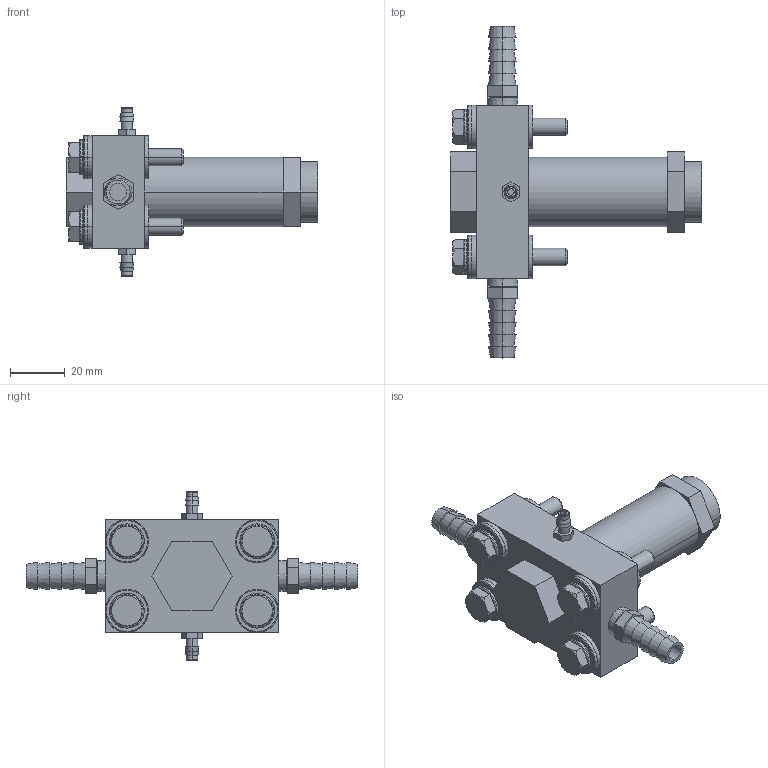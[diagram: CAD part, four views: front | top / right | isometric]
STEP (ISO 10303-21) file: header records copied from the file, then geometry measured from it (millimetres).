
FILE_DESCRIPTION((''),'2;1');
FILE_NAME('XKR2_ASM','2017-08-24T',('jennifer.elliott'),('CenterLine (Windsor) Ltd - Automation Components Division'),'PRO/ENGINEER BY PARAMETRIC TECHNOLOGY CORPORATION, 2015030','PRO/ENGINEER BY PARAMETRIC TECHNOLOGY CORPORATION, 2015030','');
FILE_SCHEMA(('AUTOMOTIVE_DESIGN { 1 0 10303 214 1 1 1 1 }'));
Length unit declared in the file: inch
Products named in the file (31): PRT1477; PRT1478; PRT1479; PRT1480; PRT1481; PRT1482; PRT1483; PRT1484; PRT1485; PRT1486; PRT1487; PRT1488; PRT1489; PRT1490; ASM0018_ASM; PRT1491; PRT1492; PRT1493; PRT1494; PRT1495; PRT1496; PRT1497; PRT1498; PRT1499; PRT1500; PRT1501; PRT1502; PRT1503; PRT1504; PRT1505; XKR2_ASM
Assembly tree (30 placements, depth 3):
  XKR2_ASM
    PRT1477
    PRT1478
    PRT1479
    PRT1480
    PRT1481
    PRT1482
    PRT1483
    PRT1484
    PRT1485
    PRT1486
    ASM0018_ASM
      PRT1487
      PRT1488
      PRT1489
      PRT1490
    PRT1491
    PRT1492
    PRT1493
    PRT1494
    PRT1495
    PRT1496
    PRT1497
    PRT1498
    PRT1499
    PRT1500
    PRT1501
    PRT1502
    PRT1503
    PRT1504
    PRT1505
Bounding box: 92.08 x 121.41 x 61.9 mm (x, y, z)
Volume: 98016 mm3; surface area: 38757.9 mm2
Topology: 29 solids, 29 shells, 346 faces, 760 edges, 496 vertices
Faces by surface type: plane 158, cylinder 92, cone 64, torus 32
Entity records: 11936 total; most frequent: CARTESIAN_POINT 2207, DIRECTION 1854, ORIENTED_EDGE 1520, AXIS2_PLACEMENT_3D 771, EDGE_CURVE 760, VERTEX_POINT 496, EDGE_LOOP 402, CIRCLE 360
